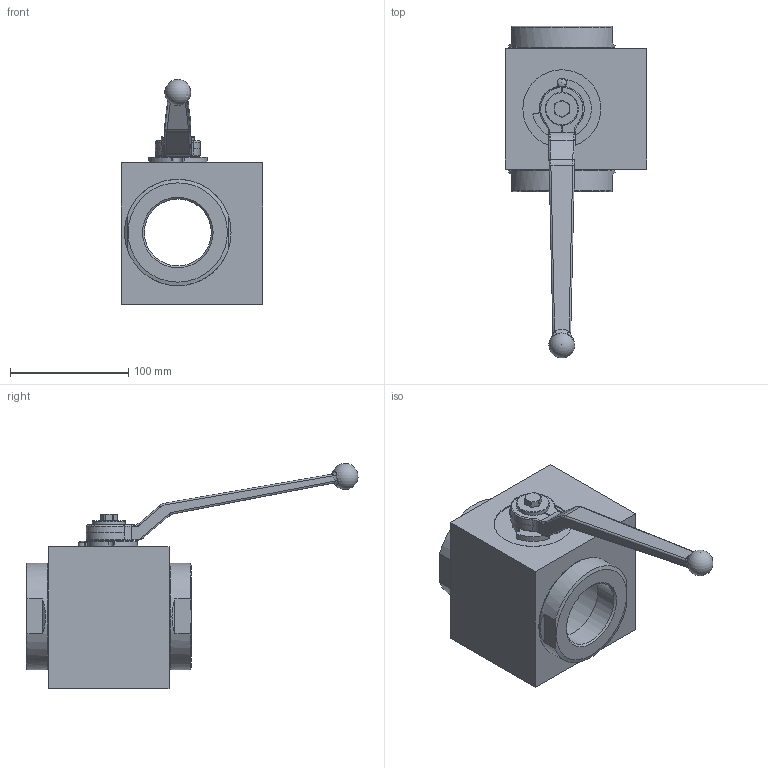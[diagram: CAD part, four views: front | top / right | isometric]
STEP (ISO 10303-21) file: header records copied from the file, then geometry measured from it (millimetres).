
FILE_DESCRIPTION( ( 'Unknown' ), '1' );
FILE_NAME( 'H:/PISTER/3D-MODELLE/BK3-Edelstahl stp/BK3-Edelst DN50 G2.stp', 'Unknown', ( 'Unknown' ), ( 'Unknown' ), 'PSStep 14.0', 'Unknown', ' ' );
FILE_SCHEMA( ( 'AUTOMOTIVE_DESIGN { 1 0 10303 214 1 1 1 1 }' ) );
Length unit declared in the file: millimetre
Products named in the file (10): Assem1; 56-032-171-oa2; 09-17-002; 58-1473-020-oa3; 58-0440-008; 06-050-003-oa6; 04-050-001-oa7; 56-032-143-oa12; Griff_SW17_; 01-050-010-oa13
Assembly tree (9 placements, depth 2):
  Assem1
    56-032-171-oa2
    09-17-002
    58-1473-020-oa3
    58-0440-008
    06-050-003-oa6
    04-050-001-oa7
    56-032-143-oa12
    Griff_SW17_
    01-050-010-oa13
Bounding box: 120 x 280.92 x 190.5 mm (x, y, z)
Volume: 1006749.2 mm3; surface area: 156264.5 mm2
Topology: 9 solids, 9 shells, 271 faces, 696 edges, 443 vertices
Faces by surface type: plane 104, cylinder 91, cone 32, torus 23, bspline 18, sphere 3
Full cylindrical faces by diameter (mm): 6.647 x1, 7.98 x1, 8 x1, 9.2 x1, 24 x2, 28 x1, 32 x1, 36 x1, 56.656 x2, 56.66 x2, 66 x1, 80.2 x2, 85 x3, 88 x3, 90 x2
Entity records: 11894 total; most frequent: CARTESIAN_POINT 3396, DIRECTION 1314, ORIENTED_EDGE 1216, EDGE_CURVE 608, AXIS2_PLACEMENT_3D 532, VERTEX_POINT 416, EDGE_LOOP 346, FACE_OUTER_BOUND 302
